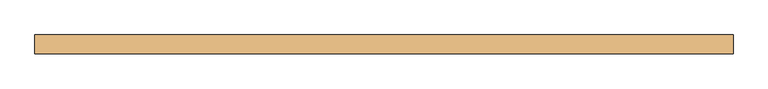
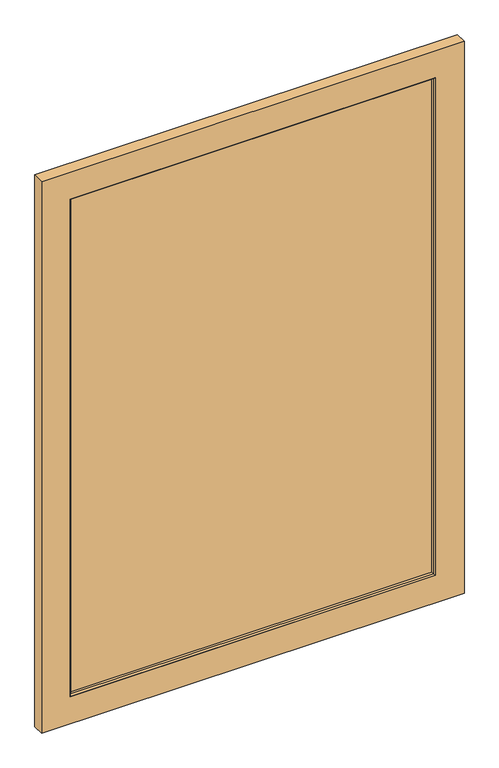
"""IFC4 building model written with IfcOpenShell, lengths in millimetres: door geometry, Planitar - Swap_Full Glass_Panel : Planitar - Swap_Full Glass_Panel."""

from ifc_helpers import new_model, si_unit, frame, origin, place, context, project, spatial, polyline, outline, extrude, faceted_brep, source, transform, mapped, element, save


def door_3d285e39(model_context):
    return source(origin(), model_context, "Body", "SolidModel", [
        extrude(outline(polyline([(2590.8, 939.8), (2590.8, -939.8), (0.0, -939.8), (0.0, 939.8), (2590.8, 939.8)]), holes=[polyline([(127.0, 812.8), (127.0, -812.8), (2463.8, -812.8), (2463.8, 812.8), (127.0, 812.8)])]), frame((0.0, -25.4, 0.0), z_axis=(0.0, 1.0, 0.0), x_axis=(0.0, 0.0, 1.0)), (0.0, 0.0, 1.0), 50.8),
        extrude(outline(polyline([(806.45, -6.35), (-806.45, -6.35), (-806.45, 6.35), (806.45, 6.35), (806.45, -6.35)])), frame((0.0, 0.0, 133.35), z_axis=(0.0, 0.0, 1.0), x_axis=(1.0, 0.0, 0.0)), (0.0, 0.0, 1.0), 2324.1),
        faceted_brep([(806.45, 19.05, 133.35), (812.8, 25.4, 127.0), (-812.8, 25.4, 127.0), (-806.45, 19.05, 133.35), (-812.8, 25.4, 2463.8), (-806.45, 19.05, 2457.45), (-812.8, -25.4, 127.0), (-812.8, -25.4, 2463.8), (-806.45, -19.05, 2457.45), (-806.45, -19.05, 133.35), (806.45, -19.05, 133.35), (812.8, -25.4, 127.0), (806.45, 19.05, 2457.45), (812.8, 25.4, 2463.8), (812.8, -25.4, 2463.8), (806.45, -19.05, 2457.45)], [[[0, 1, 2, 3]], [[3, 2, 4, 5]], [[2, 6, 7, 4]], [[3, 5, 8, 9]], [[6, 9, 8, 7]], [[10, 0, 3, 9]], [[11, 10, 9, 6]], [[1, 11, 6, 2]], [[12, 13, 1, 0]], [[13, 14, 11, 1]], [[15, 12, 0, 10]], [[14, 15, 10, 11]], [[5, 4, 13, 12]], [[8, 5, 12, 15]], [[7, 8, 15, 14]], [[4, 7, 14, 13]]]),
    ])


if __name__ == "__main__":
    model = new_model("IFC4")
    model_context = context("Model", 3, world=origin())
    ifc_project = project(units=[si_unit("LENGTHUNIT", "METRE", prefix="MILLI")], contexts=[model_context])
    site = spatial("IfcSite", under=ifc_project)
    building = spatial("IfcBuilding", under=site)
    placement = place(None, origin())
    door_shape = door_3d285e39(model_context)
    element("IfcDoor", 1, ObjectType="Planitar - Swap_Full Glass_Panel : Planitar - Swap_Full Glass_Panel", at=placement, inside=building, context=model_context, shape_type="MappedRepresentation", body=[
        mapped(door_shape, transform((0.0, 0.0, 0.0), x_axis=(1.0, 0.0, 0.0), y_axis=(0.0, 1.0, 0.0), z_axis=(0.0, 0.0, 1.0))),
    ])
    save(model, "model.ifc")
